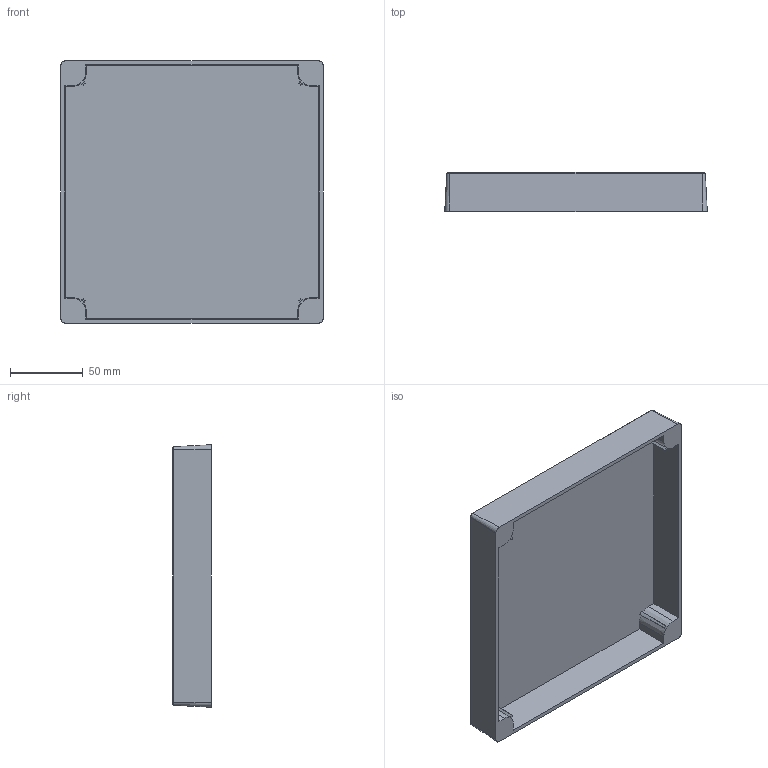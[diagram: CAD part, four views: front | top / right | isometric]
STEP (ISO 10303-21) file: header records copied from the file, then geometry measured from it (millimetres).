
FILE_DESCRIPTION (( 'STEP AP203' ), '1' );
FILE_NAME ('FIBOX_MNX17525C.STEP', '2005-06-30T06:46:56', ( ' ' ), ( ' ' ), 'SwSTEP 2.0', 'SolidWorks 2005143', '' );
FILE_SCHEMA (( 'CONFIG_CONTROL_DESIGN' ));
Length unit declared in the file: millimetre
Products named in the file (1): FIBOX_MNX17525C
Bounding box: 180 x 26.6 x 180 mm (x, y, z)
Volume: 136554.4 mm3; surface area: 100358.5 mm2
Topology: 1 solids, 1 shells, 72 faces, 184 edges, 120 vertices
Faces by surface type: plane 40, cone 20, cylinder 12
Entity records: 2277 total; most frequent: CARTESIAN_POINT 425, DIRECTION 374, ORIENTED_EDGE 368, EDGE_CURVE 184, AXIS2_PLACEMENT_3D 133, VERTEX_POINT 120, VECTOR 108, LINE 108
